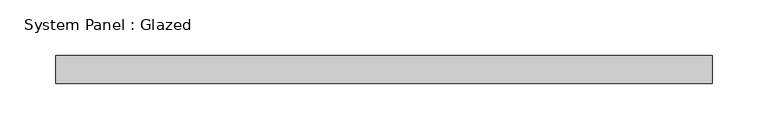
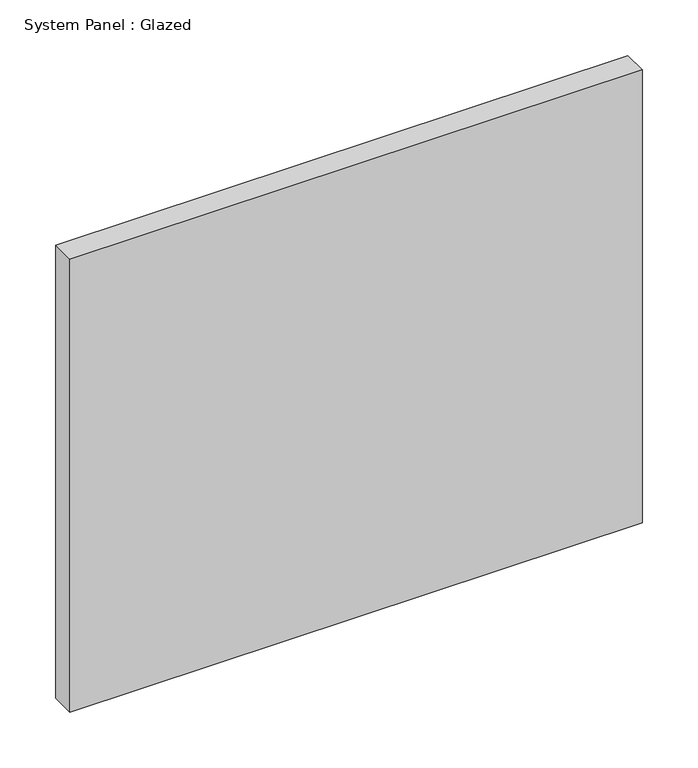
"""IFC4 building model written with IfcOpenShell, lengths in millimetres: plate geometry, System Panel : Glazed."""

from ifc_helpers import new_model, si_unit, origin, origin_with_axes, place, context, project, spatial, polyline, outline, extrude, source, transform, mapped, element, save


def system_panel_glazed_7cec7054(model_context):
    return source(origin(), model_context, "Body", "SweptSolid", [
        extrude(outline(polyline([(295.9268885, -12.7), (-295.9268885, -12.7), (-295.9268885, 12.7), (295.9268885, 12.7), (295.9268885, -12.7)])), origin_with_axes(), (0.0, 0.0, 1.0), 495.3),
    ])


if __name__ == "__main__":
    model = new_model("IFC4")
    model_context = context("Model", 3, world=origin())
    ifc_project = project(units=[si_unit("LENGTHUNIT", "METRE", prefix="MILLI")], contexts=[model_context])
    site = spatial("IfcSite", under=ifc_project)
    building = spatial("IfcBuilding", under=site)
    placement = place(None, origin())
    system_panel_glazed_shape = system_panel_glazed_7cec7054(model_context)
    element("IfcPlate", 1, ObjectType="System Panel : Glazed", at=placement, inside=building, context=model_context, shape_type="MappedRepresentation", body=[
        mapped(system_panel_glazed_shape, transform((0.0, 0.0, 0.0), x_axis=(1.0, 0.0, 0.0), y_axis=(0.0, 1.0, 0.0), z_axis=(0.0, 0.0, 1.0))),
    ])
    save(model, "model.ifc")
